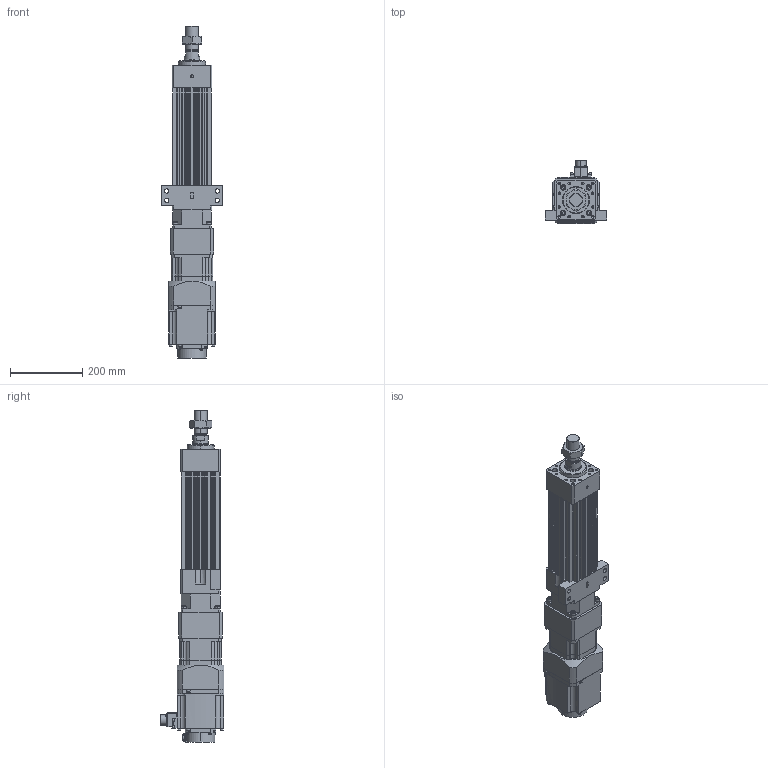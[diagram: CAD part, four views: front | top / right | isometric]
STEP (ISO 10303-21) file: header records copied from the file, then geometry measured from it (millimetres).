
FILE_DESCRIPTION (( 'STEP AP203' ), '1' );
FILE_NAME ('HES110NS(HS)-S100-W015G00-M-FFC.STEP', '2023-01-28T04:42:10', ( 'tms' ), ( '' ), 'SwSTEP 2.0', 'SolidWorks 2013', '' );
FILE_SCHEMA (( 'CONFIG_CONTROL_DESIGN' ));
Length unit declared in the file: millimetre
Products named in the file (8): P0401400706; AB115-003[HG-SR152]; HG-SR152; HES110-S100-G120-FFC; HES110NS(HS)-S100-W015G00-M-FFC; HES110 ROD M ST100; AB1151; M36X1.5P
Assembly tree (7 placements, depth 3):
  HES110NS(HS)-S100-W015G00-M-FFC
    HES110-S100-G120-FFC
    HES110 ROD M ST100
    M36X1.5P
    AB115-003[HG-SR152]
      AB1151
      P0401400706
    HG-SR152
Bounding box: 170 x 177.49 x 921.5 mm (x, y, z)
Volume: 5997475.8 mm3; surface area: 794736.9 mm2
Topology: 4 solids, 15 shells, 1222 faces, 3083 edges, 1988 vertices
Faces by surface type: plane 557, cylinder 549, cone 104, bspline 8, torus 4
Entity records: 38313 total; most frequent: CARTESIAN_POINT 7246, DIRECTION 6648, ORIENTED_EDGE 6070, EDGE_CURVE 3045, AXIS2_PLACEMENT_3D 2450, VERTEX_POINT 1988, VECTOR 1748, LINE 1748
